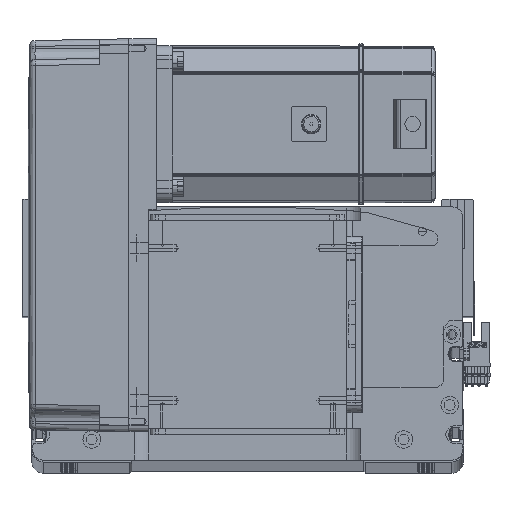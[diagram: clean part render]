
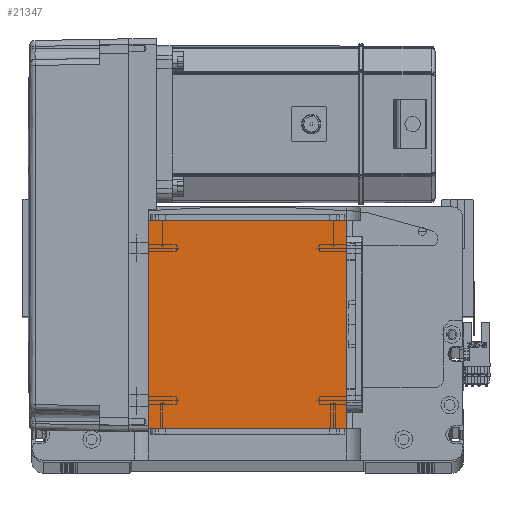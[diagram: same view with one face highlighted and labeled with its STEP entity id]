
A CAD part, top view. The second image highlights one B-rep face of the part: STEP entity #21347.
In plain terms, the highlighted planar face has unit normal (0, 0, 1).
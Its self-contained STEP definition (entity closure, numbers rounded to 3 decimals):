
#696 = EDGE_CURVE ( 'NONE', #57292, #56328, #1711, .T. ) ;
#734 = VECTOR ( 'NONE', #37195, 1000. ) ;
#1616 = CARTESIAN_POINT ( 'NONE',  ( 50.5, 122., 115. ) ) ;
#1711 = LINE ( 'NONE', #22643, #24720 ) ;
#2856 = CARTESIAN_POINT ( 'NONE',  ( -50.5, 16., 115. ) ) ;
#4616 = FACE_OUTER_BOUND ( 'NONE', #20480, .T. ) ;
#7595 = EDGE_CURVE ( 'NONE', #47771, #52942, #52078, .T. ) ;
#7788 = DIRECTION ( 'NONE',  ( 0., 0., 1. ) ) ;
#8776 = ORIENTED_EDGE ( 'NONE', *, *, #53495, .T. ) ;
#10375 = EDGE_CURVE ( 'NONE', #52942, #57292, #48910, .T. ) ;
#11823 = CARTESIAN_POINT ( 'NONE',  ( 0., 0., 115. ) ) ;
#17872 = CARTESIAN_POINT ( 'NONE',  ( 50.5, 16., 115. ) ) ;
#19035 = CARTESIAN_POINT ( 'NONE',  ( -50.5, 16., 115. ) ) ;
#20480 = EDGE_LOOP ( 'NONE', ( #24835, #25635, #51494, #8776 ) ) ;
#21347 = ADVANCED_FACE ( 'NONE', ( #4616 ), #39244, .T. ) ;
#22643 = CARTESIAN_POINT ( 'NONE',  ( 50.5, 122., 115. ) ) ;
#22840 = DIRECTION ( 'NONE',  ( 0., 1., 0. ) ) ;
#23445 = CARTESIAN_POINT ( 'NONE',  ( -50.5, 122., 115. ) ) ;
#24720 = VECTOR ( 'NONE', #22840, 1000. ) ;
#24835 = ORIENTED_EDGE ( 'NONE', *, *, #7595, .T. ) ;
#25635 = ORIENTED_EDGE ( 'NONE', *, *, #10375, .T. ) ;
#26966 = VECTOR ( 'NONE', #36985, 1000. ) ;
#28370 = LINE ( 'NONE', #53245, #29819 ) ;
#29819 = VECTOR ( 'NONE', #43609, 1000. ) ;
#36985 = DIRECTION ( 'NONE',  ( 0., -1., 0. ) ) ;
#37195 = DIRECTION ( 'NONE',  ( 1., 0., 0. ) ) ;
#39244 = PLANE ( 'NONE',  #57946 ) ;
#43609 = DIRECTION ( 'NONE',  ( -1., 0., 0. ) ) ;
#44457 = DIRECTION ( 'NONE',  ( 1., 0., 0. ) ) ;
#47771 = VERTEX_POINT ( 'NONE', #47880 ) ;
#47880 = CARTESIAN_POINT ( 'NONE',  ( -50.5, 122., 115. ) ) ;
#48910 = LINE ( 'NONE', #19035, #734 ) ;
#51494 = ORIENTED_EDGE ( 'NONE', *, *, #696, .T. ) ;
#52078 = LINE ( 'NONE', #23445, #26966 ) ;
#52942 = VERTEX_POINT ( 'NONE', #2856 ) ;
#53245 = CARTESIAN_POINT ( 'NONE',  ( -50.5, 122., 115. ) ) ;
#53495 = EDGE_CURVE ( 'NONE', #56328, #47771, #28370, .T. ) ;
#56328 = VERTEX_POINT ( 'NONE', #1616 ) ;
#57292 = VERTEX_POINT ( 'NONE', #17872 ) ;
#57946 = AXIS2_PLACEMENT_3D ( 'NONE', #11823, #7788, #44457 ) ;
